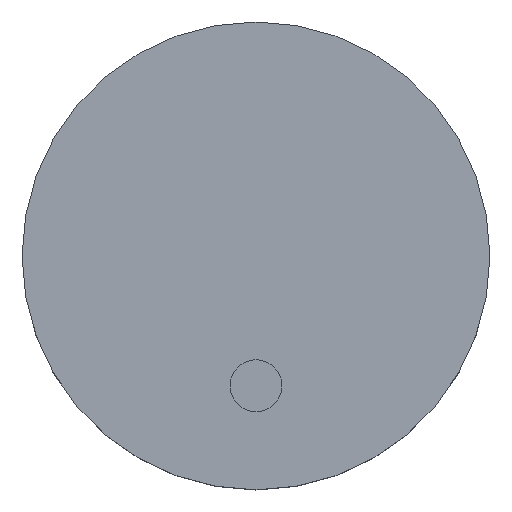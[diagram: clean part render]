
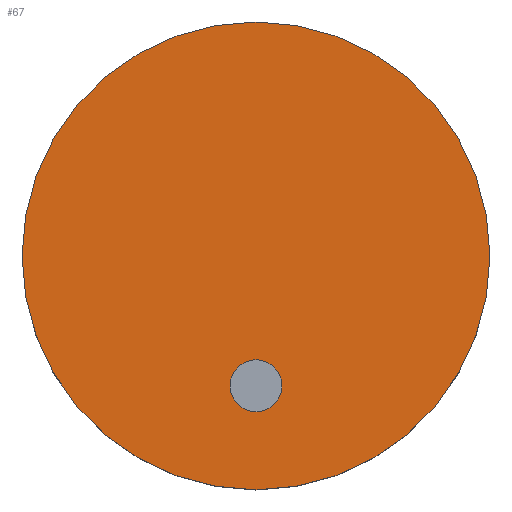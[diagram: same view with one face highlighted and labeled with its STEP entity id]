
A CAD part, top view. The second image highlights one B-rep face of the part: STEP entity #67.
In plain terms, the highlighted planar face has unit normal (0, 0, 1).
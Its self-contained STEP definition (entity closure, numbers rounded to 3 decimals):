
#4 = CIRCLE ( 'NONE', #43, 9. ) ;
#20 = AXIS2_PLACEMENT_3D ( 'NONE', #179, #56, #128 ) ;
#21 = CARTESIAN_POINT ( 'NONE',  ( 0., 0., 4. ) ) ;
#29 = AXIS2_PLACEMENT_3D ( 'NONE', #21, #121, #62 ) ;
#34 = EDGE_CURVE ( 'NONE', #73, #164, #177, .T. ) ;
#36 = CARTESIAN_POINT ( 'NONE',  ( -1., -5., 4. ) ) ;
#43 = AXIS2_PLACEMENT_3D ( 'NONE', #234, #231, #209 ) ;
#56 = DIRECTION ( 'NONE',  ( 0., 0., 1. ) ) ;
#58 = DIRECTION ( 'NONE',  ( 1., 0., 0. ) ) ;
#62 = DIRECTION ( 'NONE',  ( 1., 0., 0. ) ) ;
#63 = EDGE_CURVE ( 'NONE', #164, #73, #97, .T. ) ;
#65 = AXIS2_PLACEMENT_3D ( 'NONE', #233, #207, #152 ) ;
#67 = ADVANCED_FACE ( 'NONE', ( #94, #229 ), #116, .T. ) ;
#73 = VERTEX_POINT ( 'NONE', #78 ) ;
#78 = CARTESIAN_POINT ( 'NONE',  ( 1., -5., 4. ) ) ;
#81 = VERTEX_POINT ( 'NONE', #136 ) ;
#85 = ORIENTED_EDGE ( 'NONE', *, *, #93, .T. ) ;
#87 = ORIENTED_EDGE ( 'NONE', *, *, #102, .T. ) ;
#93 = EDGE_CURVE ( 'NONE', #81, #112, #4, .T. ) ;
#94 = FACE_BOUND ( 'NONE', #108, .T. ) ;
#97 = CIRCLE ( 'NONE', #127, 1. ) ;
#99 = DIRECTION ( 'NONE',  ( 0., 0., 1. ) ) ;
#102 = EDGE_CURVE ( 'NONE', #112, #81, #222, .T. ) ;
#108 = EDGE_LOOP ( 'NONE', ( #141, #163 ) ) ;
#112 = VERTEX_POINT ( 'NONE', #172 ) ;
#116 = PLANE ( 'NONE',  #20 ) ;
#120 = CARTESIAN_POINT ( 'NONE',  ( 0., -5., 4. ) ) ;
#121 = DIRECTION ( 'NONE',  ( 0., 0., 1. ) ) ;
#127 = AXIS2_PLACEMENT_3D ( 'NONE', #120, #99, #58 ) ;
#128 = DIRECTION ( 'NONE',  ( 1., 0., 0. ) ) ;
#136 = CARTESIAN_POINT ( 'NONE',  ( -9., 0., 4. ) ) ;
#141 = ORIENTED_EDGE ( 'NONE', *, *, #63, .F. ) ;
#152 = DIRECTION ( 'NONE',  ( 1., 0., 0. ) ) ;
#163 = ORIENTED_EDGE ( 'NONE', *, *, #34, .F. ) ;
#164 = VERTEX_POINT ( 'NONE', #36 ) ;
#172 = CARTESIAN_POINT ( 'NONE',  ( 9., 0., 4. ) ) ;
#177 = CIRCLE ( 'NONE', #65, 1. ) ;
#179 = CARTESIAN_POINT ( 'NONE',  ( 0., 0., 4. ) ) ;
#207 = DIRECTION ( 'NONE',  ( 0., 0., 1. ) ) ;
#209 = DIRECTION ( 'NONE',  ( 1., 0., 0. ) ) ;
#222 = CIRCLE ( 'NONE', #29, 9. ) ;
#229 = FACE_OUTER_BOUND ( 'NONE', #237, .T. ) ;
#231 = DIRECTION ( 'NONE',  ( 0., 0., 1. ) ) ;
#233 = CARTESIAN_POINT ( 'NONE',  ( 0., -5., 4. ) ) ;
#234 = CARTESIAN_POINT ( 'NONE',  ( 0., 0., 4. ) ) ;
#237 = EDGE_LOOP ( 'NONE', ( #85, #87 ) ) ;
